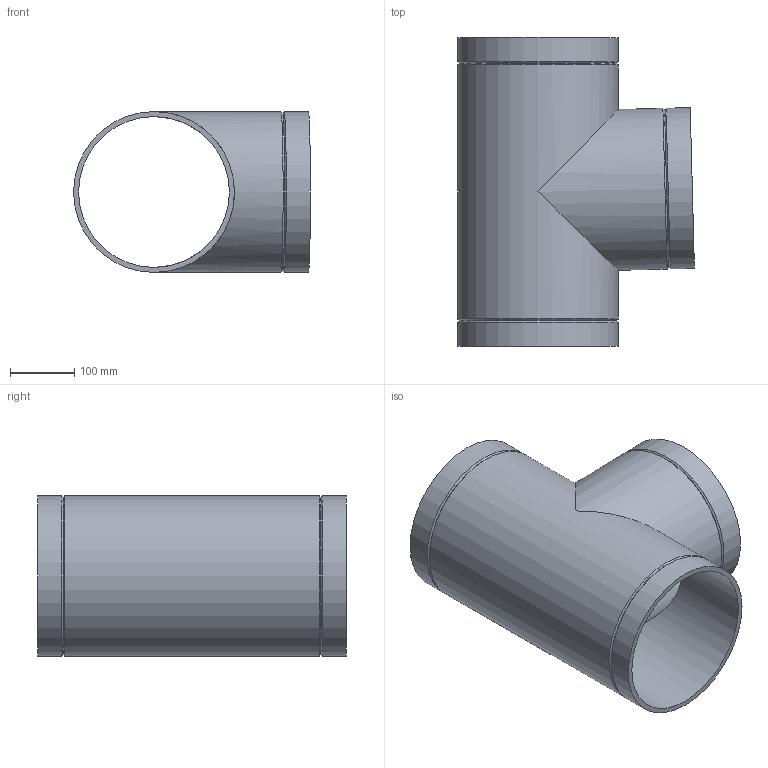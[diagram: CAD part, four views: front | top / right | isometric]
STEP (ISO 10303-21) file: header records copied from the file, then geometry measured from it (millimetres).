
FILE_DESCRIPTION(/* description */ (''),/* implementation_level */ '2;1');
FILE_NAME(/* name */ 'Z:\Geberit\Export\NewStep\371197.stp',/* time_stamp */ '2014-04-02T08:05:26+02:00',/* author */ ('nelson'),/* organization */ (''),/* preprocessor_version */ 'ST-DEVELOPER v15.2',/* originating_system */ 'Autodesk Inventor 2014',/* authorisation */ '');
FILE_SCHEMA (('AUTOMOTIVE_DESIGN { 1 0 10303 214 3 1 1 }'));
Length unit declared in the file: millimetre
Products named in the file (1): 371197
Bounding box: 368.19 x 480 x 250 mm (x, y, z)
Volume: 3342809.9 mm3; surface area: 883238 mm2
Topology: 1 solids, 1 shells, 16 faces, 39 edges, 25 vertices
Faces by surface type: cylinder 7, cone 6, plane 3
Full cylindrical faces by diameter (mm): 234.4 x2, 250 x5
Entity records: 399 total; most frequent: DIRECTION 72, CARTESIAN_POINT 55, ORIENTED_EDGE 38, AXIS2_PLACEMENT_3D 36, EDGE_LOOP 34, FACE_BOUND 22, VERTEX_POINT 19, EDGE_CURVE 19
